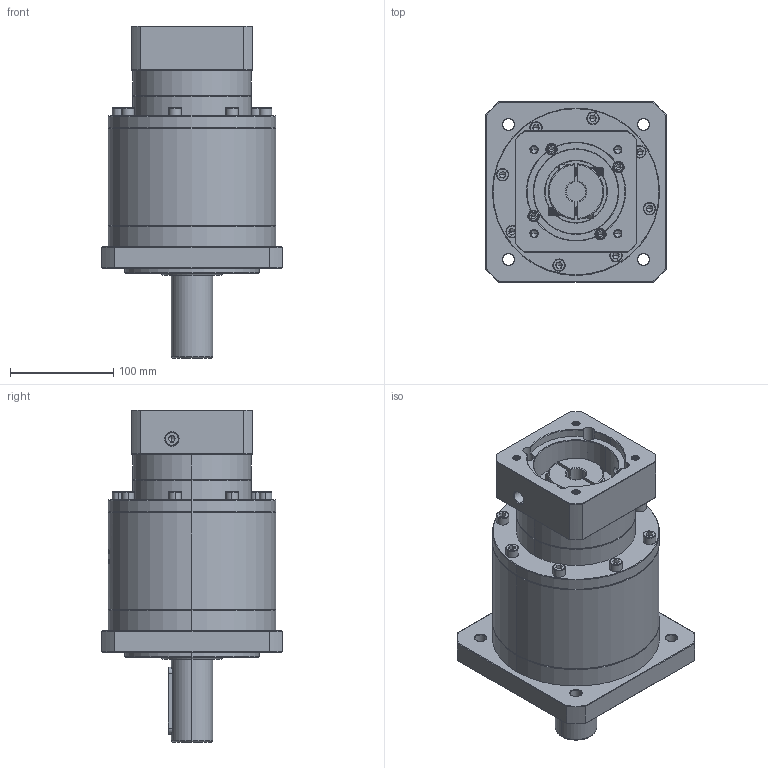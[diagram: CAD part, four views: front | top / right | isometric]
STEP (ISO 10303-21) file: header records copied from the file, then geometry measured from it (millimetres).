
FILE_DESCRIPTION (( 'STEP AP214' ), '1' );
FILE_NAME ('ZF160-D40-L3-19-95-115-M8.step', '2023-03-22T03:57:18', ( '' ), ( '' ), 'SwSTEP 2.0', 'SolidWorks 2016', '' );
FILE_SCHEMA (( 'AUTOMOTIVE_DESIGN' ));
Length unit declared in the file: millimetre
Products named in the file (1): ZF160-D40-L3-19-95-115-M8
Bounding box: 175 x 175 x 321.7 mm (x, y, z)
Volume: 4211781.7 mm3; surface area: 280967.8 mm2
Topology: 6 solids, 6 shells, 1880 faces, 4771 edges, 3013 vertices
Faces by surface type: plane 746, cylinder 491, cone 373, bspline 232, torus 38
Entity records: 100172 total; most frequent: CARTESIAN_POINT 36553, ORIENTED_EDGE 9434, DIRECTION 8259, EDGE_CURVE 4717, VERTEX_POINT 3013, AXIS2_PLACEMENT_3D 2874, LINE 2511, VECTOR 2511
